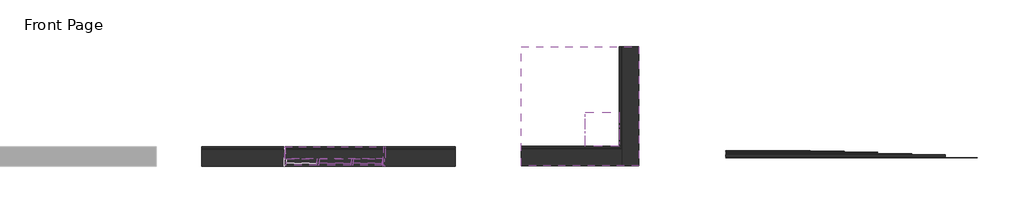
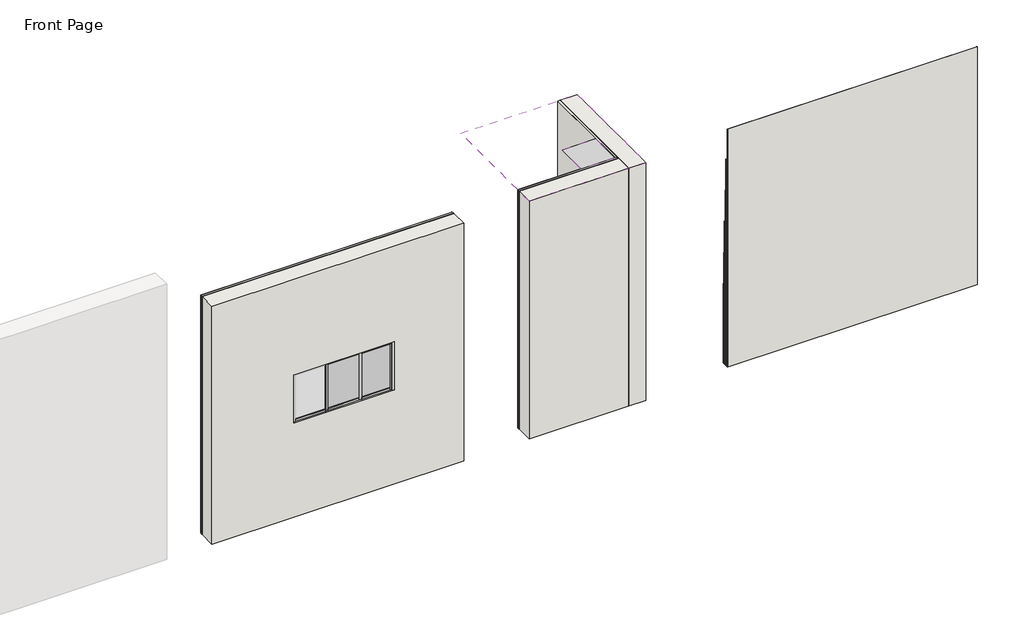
# One storey, part 2 of 2: 28 walls, 8 members, 2 coverings, 2 plates, 2 slabs, 1 proxy.
"""IFC4 building model written with IfcOpenShell, lengths in millimetres."""

from ifc_helpers import new_model, si_unit, frame, origin, origin_with_axes, place, context, project, spatial, polyline, outline, extrude, faceted_brep, transform, mapped, element, save
from ifc_brep_helpers import plane_surface, spline_surface, advanced_brep
from components import rectangular_mullion_50_x_150mm_8a1ff190, rectangular_mullion_50_x_150mm_67db062b, rectangular_mullion_50_x_150mm_a0b78ac3, rectangular_mullion_50_x_150mm_648e3154, rectangular_mullion_50_x_150mm_9df94d2e, system_panel_glazed_34aa382c, system_panel_glazed_e7f8989c

model = new_model("IFC4")

# Units and contexts
model_context = context("Model", 3, world=origin())
ifc_project = project(units=[si_unit("LENGTHUNIT", "METRE", prefix="MILLI")], contexts=[model_context])

# Site, building, storey
site = spatial("IfcSite", under=ifc_project)
building = spatial("IfcBuilding", under=site)
storey = spatial("IfcBuildingStorey", under=building, Name="Front Page", Elevation=0.0)

# Proxy
placement = place(None, origin())
element("IfcBuildingElementProxy", 1, Name="Corner : Corner", ObjectType="Corner : Corner", at=placement, inside=storey, context=model_context, shape_type="AdvancedBrep", body=[
    advanced_brep(
    [(30432.4365532, 1501.9269611, 5987.0), (30432.4365532, 701.9269611, 5987.0), (30432.4365532, 701.9269611, 5992.0), (30432.4365532, 1501.9269611, 5992.0), (31232.4365532, 701.9269611, 5964.0), (31232.4365532, 701.9269611, 5992.0), (31232.4365532, 1501.9269611, 5987.0), (31232.4365532, 1501.9269611, 5992.0)],
    [
        (0, 1),
        (1, 2),
        (2, 3),
        (3, 0),
        (1, 4),
        (4, 5),
        (5, 2),
        (4, 6),
        (6, 7),
        (7, 5),
        (6, 0),
        (3, 7),
    ],
    [
        plane_surface(frame((30432.4365532, 1101.9269611, 5987.0), z_axis=(-1.0, 0.0, 0.0), x_axis=(0.0, -1.0, 0.0))),
        plane_surface(frame((30832.4365532, 701.9269611, 5975.5), z_axis=(0.0, -1.0, 0.0), x_axis=(1.0, 0.0, 0.0))),
        plane_surface(frame((31232.4365532, 1101.9269611, 5975.5), z_axis=(1.0, 0.0, 0.0), x_axis=(0.0, 1.0, 0.0))),
        plane_surface(frame((30832.4365532, 1501.9269611, 5987.0), z_axis=(0.0, 1.0, 0.0), x_axis=(-1.0, 0.0, 0.0))),
        plane_surface(frame((30832.4365532, 1101.9269611, 5992.0), z_axis=(0.0, 0.0, 1.0), x_axis=(0.0, 1.0, 0.0))),
        spline_surface(1, 1, [[(31232.4365532, 1501.9269611, 5987.0), (30432.4365532, 1501.9269611, 5987.0)], [(31232.4365532, 701.9269611, 5964.0), (30432.4365532, 701.9269611, 5987.0)]], [2, 2], [2, 2], [0.0, 1.0], [0.0, 1.0]),
    ],
    [
        (0, [[1, 2, 3, 4]]),
        (1, [[5, 6, 7, -2]]),
        (2, [[8, 9, 10, -6]]),
        (3, [[11, -4, 12, -9]]),
        (4, [[-10, -12, -3, -7]]),
        (5, [[-11, -8, -5, -1]]),
    ],
),
])

# Coverings
element("IfcCovering", 2, ObjectType="SkamoWall Wedge", at=placement, inside=storey, context=model_context, shape_type="SweptSolid", body=[
    extrude(outline(polyline([(30432.4365532, 701.9269611), (30432.4365532, 1501.9269611), (31232.4365532, 1501.9269611), (31232.4365532, 701.9269611), (30432.4365532, 701.9269611)])), frame((0.0, 0.0, 5992.0), z_axis=(0.0, 0.0, 1.0), x_axis=(1.0, 0.0, 0.0)), (0.0, 0.0, 1.0), 8.0),
])
element("IfcCovering", 3, ObjectType="Plain", at=placement, inside=storey, context=model_context, shape_type="SweptSolid", body=[
    extrude(outline(polyline([(28914.3740532, 235.7069818), (28914.3740532, 3059.7069818), (31698.3740532, 3059.7069818), (31698.3740532, 235.7069818), (28914.3740532, 235.7069818)])), frame((0.0, 0.0, 6000.0), z_axis=(0.0, 0.0, 1.0), x_axis=(1.0, 0.0, 0.0)), (0.0, 0.0, 1.0), 57.0),
])

# Members
rectangular_mullion_50_x_150mm_shape = rectangular_mullion_50_x_150mm_8a1ff190(model_context)
element("IfcMember", 4, ObjectType="Rectangular Mullion : 50 x 150mm", at=placement, inside=storey, context=model_context, shape_type="MappedRepresentation", body=[
    mapped(rectangular_mullion_50_x_150mm_shape, transform((24123.7000967, 330.3189246, 3589.3132869), x_axis=(0.0, 0.0, 1.0), y_axis=(0.0, 1.0, 0.0), z_axis=(-1.0, 0.0, 0.0))),
])
rectangular_mullion_50_x_150mm_2_shape = rectangular_mullion_50_x_150mm_67db062b(model_context)
element("IfcMember", 5, ObjectType="Rectangular Mullion : 50 x 150mm", at=placement, inside=storey, context=model_context, shape_type="MappedRepresentation", body=[
    mapped(rectangular_mullion_50_x_150mm_2_shape, transform((24906.7000967, 330.3189246, 2377.3132869), x_axis=(-1.0, 0.0, 0.0), y_axis=(0.0, 1.0, 0.0), z_axis=(0.0, 0.0, -1.0))),
])
element("IfcMember", 6, ObjectType="Rectangular Mullion : 50 x 150mm", at=placement, inside=storey, context=model_context, shape_type="MappedRepresentation", body=[
    mapped(rectangular_mullion_50_x_150mm_2_shape, transform((24098.7000967, 330.3189246, 2377.3132869), x_axis=(-1.0, 0.0, 0.0), y_axis=(0.0, 1.0, 0.0), z_axis=(0.0, 0.0, -1.0))),
])
element("IfcMember", 7, ObjectType="Rectangular Mullion : 50 x 150mm", at=placement, inside=storey, context=model_context, shape_type="MappedRepresentation", body=[
    mapped(rectangular_mullion_50_x_150mm_shape, transform((24881.7000967, 330.3189246, 2377.3132869), x_axis=(0.0, 0.0, -1.0), y_axis=(0.0, 1.0, 0.0), z_axis=(1.0, 0.0, 0.0))),
])
rectangular_mullion_50_x_150mm_3_shape = rectangular_mullion_50_x_150mm_a0b78ac3(model_context)
element("IfcMember", 8, ObjectType="Rectangular Mullion : 50 x 150mm", at=placement, inside=storey, context=model_context, shape_type="MappedRepresentation", body=[
    mapped(rectangular_mullion_50_x_150mm_3_shape, transform((25670.7000967, 330.3189246, 3589.3132869), x_axis=(1.0, 0.0, 0.0), y_axis=(0.0, 1.0, 0.0), z_axis=(0.0, 0.0, 1.0))),
])
rectangular_mullion_50_x_150mm_4_shape = rectangular_mullion_50_x_150mm_648e3154(model_context)
element("IfcMember", 9, ObjectType="Rectangular Mullion : 50 x 150mm", at=placement, inside=storey, context=model_context, shape_type="MappedRepresentation", body=[
    mapped(rectangular_mullion_50_x_150mm_4_shape, transform((24931.7000967, 330.3189246, 3589.3132869), x_axis=(0.0, 0.0, 1.0), y_axis=(0.0, 1.0, 0.0), z_axis=(-1.0, 0.0, 0.0))),
])
element("IfcMember", 10, ObjectType="Rectangular Mullion : 50 x 150mm", at=placement, inside=storey, context=model_context, shape_type="MappedRepresentation", body=[
    mapped(rectangular_mullion_50_x_150mm_4_shape, transform((25620.7000967, 330.3189246, 2377.3132869), x_axis=(0.0, 0.0, -1.0), y_axis=(0.0, 1.0, 0.0), z_axis=(1.0, 0.0, 0.0))),
])
rectangular_mullion_50_x_150mm_5_shape = rectangular_mullion_50_x_150mm_9df94d2e(model_context)
element("IfcMember", 11, ObjectType="Rectangular Mullion : 50 x 150mm", at=placement, inside=storey, context=model_context, shape_type="MappedRepresentation", body=[
    mapped(rectangular_mullion_50_x_150mm_5_shape, transform((24073.7000967, 330.3189246, 2377.3132869), x_axis=(0.0, 0.0, -1.0), y_axis=(0.0, 1.0, 0.0), z_axis=(1.0, 0.0, 0.0))),
])

# Plates
system_panel_glazed_shape = system_panel_glazed_34aa382c(model_context)
element("IfcPlate", 12, ObjectType="System Panel : Glazed", at=placement, inside=storey, context=model_context, shape_type="MappedRepresentation", body=[
    mapped(system_panel_glazed_shape, transform((24502.7000967, 330.3189246, 2427.3132869), x_axis=(-1.0, 0.0, 0.0), y_axis=(0.0, -1.0, 0.0), z_axis=(0.0, 0.0, 1.0))),
])
system_panel_glazed_2_shape = system_panel_glazed_e7f8989c(model_context)
element("IfcPlate", 13, ObjectType="System Panel : Glazed", at=placement, inside=storey, context=model_context, shape_type="MappedRepresentation", body=[
    mapped(system_panel_glazed_2_shape, transform((25276.2000967, 330.3189246, 2427.3132869), x_axis=(-1.0, 0.0, 0.0), y_axis=(0.0, -1.0, 0.0), z_axis=(0.0, 0.0, 1.0))),
])

# Slabs
element("IfcSlab", 14, ObjectType="Bore samlet", at=placement, inside=storey, context=model_context, shape_type="SweptSolid", body=[
    extrude(outline(polyline([(25648.7000967, 405.3189246), (23327.2625967, 405.3189246), (23327.2625967, 688.3501746), (25648.7000967, 688.3501746), (25648.7000967, 405.3189246)])), frame((0.0, 0.0, 2377.0), z_axis=(0.0, 0.0, 1.0), x_axis=(1.0, 0.0, 0.0)), (0.0, 0.0, 1.0), 44.0),
])
element("IfcSlab", 15, ObjectType="Bore samlet omv", at=placement, inside=storey, context=model_context, shape_type="SweptSolid", body=[
    extrude(outline(polyline([(25648.7000967, 405.3189246), (23313.2000967, 405.3189246), (23313.2000967, 689.3501746), (25648.7000967, 689.3501746), (25648.7000967, 405.3189246)])), frame((0.0, 0.0, 3545.313228), z_axis=(0.0, 0.0, 1.0), x_axis=(1.0, 0.0, 0.0)), (0.0, 0.0, 1.0), 44.0),
])

# Walls
element("IfcWall", 16, ObjectType="Skamol Adhesive - 8mm", at=placement, inside=storey, context=model_context, shape_type="SweptSolid", body=[
    extrude(outline(polyline([(0.0, 21344.985996), (0.0, 27344.985996), (6000.0, 27344.985996), (6000.0, 21344.985996), (0.0, 21344.985996)]), holes=[polyline([(3589.3132869, 23306.2000967), (3589.3132869, 25692.7000967), (2377.3132869, 25692.7000967), (2377.3132869, 23306.2000967), (3589.3132869, 23306.2000967)])]), frame((0.0, 630.3423621, 0.0), z_axis=(0.0, 1.0, 0.0), x_axis=(0.0, 0.0, 1.0)), (0.0, 0.0, 1.0), 8.0),
])
element("IfcWall", 17, ObjectType="SkamoWall Board 50mm", at=placement, inside=storey, context=model_context, shape_type="Brep", body=[
    faceted_brep([(21344.985996, 638.2173621, 0.0), (27344.985996, 638.2173621, 0.0), (27344.985996, 638.2173621, 6000.0), (21344.985996, 638.2173621, 6000.0), (23327.5750967, 638.2173621, 3555.3160189), (25714.7000967, 638.2173621, 3555.3160189), (25714.7000967, 638.2173621, 2410.9805239), (23324.6219717, 638.2173621, 2410.9805239), (23305.6219717, 638.2173621, 2410.9805239), (23305.6219717, 638.2173621, 3335.3160189), (23097.9607791, 638.2173621, 3335.3160189), (23097.9607791, 638.2173621, 3555.3160189), (21344.985996, 688.2173621, 0.0), (21344.985996, 688.2173621, 6000.0), (27344.985996, 688.2173621, 6000.0), (27344.985996, 688.2173621, 0.0), (23327.5750967, 688.2173621, 3555.3160189), (23097.9607791, 688.2173621, 3555.3160189), (23097.9607791, 688.2173621, 3335.3160189), (23305.6219717, 688.2173621, 3335.3160189), (23305.6219717, 688.2173621, 2410.9805239), (23324.6219717, 688.2173621, 2410.9805239), (25714.7000967, 688.2173621, 2410.9805239), (25714.7000967, 688.2173621, 3555.3160189)], [[[0, 1, 2, 3], [4, 5, 6, 7, 8, 9, 10, 11]], [[12, 13, 14, 15], [16, 17, 18, 19, 20, 21, 22, 23]], [[1, 0, 12, 15]], [[2, 1, 15, 14]], [[3, 2, 14, 13]], [[0, 3, 13, 12]], [[5, 4, 16, 23]], [[6, 5, 23, 22]], [[8, 7, 6, 22, 21, 20]], [[10, 9, 19, 18]], [[11, 10, 18, 17]], [[4, 11, 17, 16]], [[9, 8, 20, 19]]]),
])
element("IfcWall", 18, ObjectType="Skamol Smooth Plaster", at=placement, inside=storey, context=model_context, shape_type="Brep", body=[
    faceted_brep([(21344.985996, 689.2095496, 0.0), (27344.985996, 689.2095496, 0.0), (27344.985996, 689.2095496, 6000.0), (21344.985996, 689.2095496, 6000.0), (23097.9607791, 689.2095496, 3545.313228), (25648.7000967, 689.2095496, 3545.313228), (25648.7000967, 689.2095496, 2421.0), (23325.2899405, 689.2095496, 2421.0), (23325.2899405, 689.2095496, 2945.313228), (23097.9607791, 689.2095496, 2945.313228), (21344.985996, 690.2095496, 0.0), (21344.985996, 690.2095496, 6000.0), (27344.985996, 690.2095496, 6000.0), (27344.985996, 690.2095496, 0.0), (23097.9607791, 690.2095496, 3545.313228), (23097.9607791, 690.2095496, 2945.313228), (23325.2899405, 690.2095496, 2945.313228), (23325.2899405, 690.2095496, 2540.9528915), (23325.2899405, 690.2095496, 2421.0), (25648.7000967, 690.2095496, 2421.0), (25648.7000967, 690.2095496, 3545.313228)], [[[0, 1, 2, 3], [4, 5, 6, 7, 8, 9]], [[10, 11, 12, 13], [14, 15, 16, 17, 18, 19, 20]], [[1, 0, 10, 13]], [[2, 1, 13, 12]], [[3, 2, 12, 11]], [[0, 3, 11, 10]], [[5, 4, 14, 20]], [[7, 6, 19, 18]], [[4, 9, 15, 14]], [[9, 8, 16, 15]], [[6, 5, 20, 19]], [[7, 18, 17, 16, 8]]]),
])
element("IfcWall", 19, ObjectType="SkamoWall Bore", at=placement, inside=storey, context=model_context, shape_type="Brep", body=[
    faceted_brep([(25648.7000967, 689.2095496, 3589.3132869), (25648.7000967, 689.2095496, 3545.313228), (25648.7000967, 689.2095496, 2421.0), (25648.7000967, 689.2095496, 2377.3132869), (25648.7000967, 222.3189246, 2377.3132869), (25648.7000967, 222.3189246, 3589.3132869), (25692.7000967, 689.2095496, 2377.3132869), (25692.7000967, 689.2095496, 3589.3132869), (25692.7000967, 638.3423621, 3589.3132869), (25692.7000967, 630.3189246, 3589.3132869), (25692.7000967, 222.3189246, 3589.3132869), (25692.7000967, 222.3189246, 2377.3132869), (25692.7000967, 630.3189246, 2377.3132869), (25692.7000967, 638.3423621, 2377.3132869)], [[[0, 1, 2, 3, 4, 5]], [[6, 7, 8, 9, 10, 11, 12, 13]], [[4, 3, 6, 13, 12, 11]], [[0, 5, 10, 9, 8, 7]], [[5, 4, 11, 10]], [[0, 7, 6, 3, 2, 1]]]),
])
element("IfcWall", 20, ObjectType="Skamol Primer", at=placement, inside=storey, context=model_context, shape_type="Brep", body=[
    faceted_brep([(21344.985996, 688.1157996, 0.0), (27344.985996, 688.1157996, 0.0), (27344.985996, 688.1157996, 6000.0), (21344.985996, 688.1157996, 6000.0), (23327.7000967, 688.1157996, 3589.3132869), (25714.7000967, 688.1157996, 3589.3132869), (25714.7000967, 688.1157996, 2377.3132869), (23325.6454092, 688.1157996, 2377.3132869), (23325.6454092, 688.1157996, 2416.0), (23325.6454092, 688.1157996, 3130.313228), (23324.6454092, 688.1157996, 3130.313228), (23097.9607791, 688.1157996, 3130.313228), (23097.9607791, 688.1157996, 3550.313228), (23327.7000967, 688.1157996, 3550.313228), (21344.985996, 689.1157996, 0.0), (21344.985996, 689.1157996, 6000.0), (27344.985996, 689.1157996, 6000.0), (27344.985996, 689.1157996, 0.0), (23327.7000967, 689.1157996, 3589.3132869), (23327.7000967, 689.1157996, 3550.313228), (23097.9607791, 689.1157996, 3550.313228), (23097.9607791, 689.1157996, 3130.313228), (23325.6454092, 689.1157996, 3130.313228), (23325.6454092, 689.1157996, 2377.3132869), (25714.7000967, 689.1157996, 2377.3132869), (25714.7000967, 689.1157996, 3589.3132869)], [[[0, 1, 2, 3], [4, 5, 6, 7, 8, 9, 10, 11, 12, 13]], [[14, 15, 16, 17], [18, 19, 20, 21, 22, 23, 24, 25]], [[1, 0, 14, 17]], [[2, 1, 17, 16]], [[3, 2, 16, 15]], [[0, 3, 15, 14]], [[5, 4, 18, 25]], [[6, 5, 25, 24]], [[7, 6, 24, 23]], [[4, 13, 19, 18]], [[11, 10, 9, 22, 21]], [[12, 11, 21, 20]], [[13, 12, 20, 19]], [[9, 8, 7, 23, 22]]]),
])
element("IfcWall", 21, ObjectType="Skamol Smooth Plaster", at=placement, inside=storey, context=model_context, shape_type="Brep", body=[
    faceted_brep([(23326.2899405, 403.5104132, 2421.0), (23326.2899405, 690.3657996, 2421.0), (23326.2899405, 690.3657996, 2540.9528915), (23326.2899405, 690.2095496, 2945.3243059), (23326.2899405, 403.5104132, 2945.3243059), (23325.2899405, 403.5104132, 2421.0), (23325.2899405, 403.5104132, 2945.3243059), (23325.2899405, 689.2095496, 2945.3243059), (23325.2899405, 690.2095496, 2945.3243059), (23325.2899405, 690.2095496, 2540.9528915), (23325.2899405, 690.3657996, 2421.0), (23325.2899405, 689.3657996, 2421.0)], [[[0, 1, 2, 3, 4]], [[5, 6, 7, 8, 9, 10, 11]], [[1, 0, 5, 11, 10]], [[4, 3, 8, 7, 6]], [[0, 4, 6, 5]], [[2, 1, 10, 9]], [[3, 2, 9, 8]]]),
])
element("IfcWall", 22, ObjectType="Skamol Primer", at=placement, inside=storey, context=model_context, shape_type="SweptSolid", body=[
    extrude(outline(polyline([(23325.6454092, 688.1157996), (23325.6454092, 400.373984), (23324.6454092, 400.373984), (23324.6454092, 688.1157996), (23325.6454092, 688.1157996)])), frame((0.0, 0.0, 2416.0), z_axis=(0.0, 0.0, 1.0), x_axis=(1.0, 0.0, 0.0)), (0.0, 0.0, 1.0), 714.182453),
])
element("IfcWall", 23, ObjectType="Skamol Adhesive - 8mm", at=placement, inside=storey, context=model_context, shape_type="Brep", body=[
    faceted_brep([(31290.3740532, 651.7069818, 0.0), (31290.3740532, 3059.7069818, 0.0), (31290.3740532, 3059.7069818, 6000.0), (31290.3740532, 651.7069818, 6000.0), (31282.3740532, 651.7069818, 0.0), (31282.3740532, 651.7069818, 6000.0), (31282.3740532, 651.9269611, 6000.0), (31282.3740532, 701.9269611, 6000.0), (31282.3740532, 3059.7069818, 6000.0), (31282.3740532, 3059.7069818, 0.0), (31282.3740532, 701.9269611, 0.0), (31282.3740532, 651.9269611, 0.0)], [[[0, 1, 2, 3]], [[4, 5, 6, 7, 8, 9, 10, 11]], [[1, 0, 4, 11, 10, 9]], [[2, 1, 9, 8]], [[3, 2, 8, 7, 6, 5]], [[0, 3, 5, 4]]]),
])
element("IfcWall", 24, ObjectType="SkamoWall Board 50mm", at=placement, inside=storey, context=model_context, shape_type="SweptSolid", body=[
    extrude(outline(polyline([(31282.4365532, 3059.7069818), (31282.4365532, 701.9269611), (31232.4365532, 701.9269611), (31232.4365532, 3059.7069818), (31282.4365532, 3059.7069818)])), origin_with_axes(), (0.0, 0.0, 1.0), 6000.0),
])
element("IfcWall", 25, ObjectType="Skamol Primer", at=placement, inside=storey, context=model_context, shape_type="Brep", body=[
    faceted_brep([(31232.4404594, 701.9269611, 0.0), (31232.4404594, 3059.7069818, 0.0), (31232.4404594, 3059.7069818, 6000.0), (31232.4404594, 1501.9269611, 6000.0), (31232.4404594, 1501.9269611, 5987.0), (31232.4404594, 701.9269611, 5964.0737116), (31231.4404594, 701.9269611, 0.0), (31231.4404594, 701.9269611, 5964.0737116), (31231.4404594, 1501.9269611, 5987.0), (31231.4404594, 1501.9269611, 6000.0), (31231.4404594, 3059.7069818, 6000.0), (31231.4404594, 3059.7069818, 0.0), (31231.4404594, 703.9269611, 0.0), (31231.4404594, 702.9269611, 0.0)], [[[0, 1, 2, 3, 4, 5]], [[6, 7, 8, 9, 10, 11, 12, 13]], [[1, 0, 6, 13, 12, 11]], [[2, 1, 11, 10]], [[3, 2, 10, 9]], [[0, 5, 7, 6]], [[4, 3, 9, 8]], [[5, 4, 8, 7]]]),
])
element("IfcWall", 26, ObjectType="Skamol Smooth Plaster", at=placement, inside=storey, context=model_context, shape_type="SweptSolid", body=[
    extrude(outline(polyline([(703.9269611, 0.0), (703.9269611, 5964.0075986), (1501.9269611, 5986.9214406), (1501.9269611, 6000.0), (3059.7069818, 6000.0), (3059.7069818, 0.0), (703.9269611, 0.0)])), frame((31230.4404594, 0.0, 0.0), z_axis=(1.0, 0.0, 0.0), x_axis=(0.0, 1.0, 0.0)), (0.0, 0.0, 1.0), 1.0),
])
element("IfcWall", 27, ObjectType="Skamol Primer", at=placement, inside=storey, context=model_context, shape_type="Brep", body=[
    faceted_brep([(31283.0459282, 650.9726068, 0.0), (31283.0459282, 3059.7069818, 0.0), (31283.0459282, 3059.7069818, 6000.0), (31283.0459282, 650.9726068, 6000.0), (31282.0459282, 650.9726068, 0.0), (31282.0459282, 650.9726068, 6000.0), (31282.0459282, 651.9726068, 6000.0), (31282.0459282, 3059.7069818, 6000.0), (31282.0459282, 3059.7069818, 0.0), (31282.0459282, 651.9726068, 0.0)], [[[0, 1, 2, 3]], [[4, 5, 6, 7, 8, 9]], [[1, 0, 4, 9, 8]], [[2, 1, 8, 7]], [[3, 2, 7, 6, 5]], [[0, 3, 5, 4]]]),
])
element("IfcWall", 28, ObjectType="Skamol Adhesive - 8mm", at=placement, inside=storey, context=model_context, shape_type="Brep", body=[
    faceted_brep([(28914.3740532, 643.7069818, 0.0), (31290.3740532, 643.7069818, 0.0), (31290.3740532, 643.7069818, 6000.0), (28914.3740532, 643.7069818, 6000.0), (28914.3740532, 651.7069818, 0.0), (28914.3740532, 651.7069818, 6000.0), (31282.3740532, 651.7069818, 6000.0), (31290.3740532, 651.7069818, 6000.0), (31290.3740532, 651.7069818, 0.0), (31282.3740532, 651.7069818, 0.0)], [[[0, 1, 2, 3]], [[4, 5, 6, 7, 8, 9]], [[1, 0, 4, 9, 8]], [[3, 2, 7, 6, 5]], [[0, 3, 5, 4]], [[2, 1, 8, 7]]]),
])
element("IfcWall", 29, ObjectType="SkamoWall Board 50mm", at=placement, inside=storey, context=model_context, shape_type="Brep", body=[
    faceted_brep([(28914.3740532, 651.9269611, 0.0), (31282.3740532, 651.9269611, 0.0), (31282.3740532, 651.9269611, 6000.0), (28914.3740532, 651.9269611, 6000.0), (28914.3740532, 701.9269611, 0.0), (28914.3740532, 701.9269611, 6000.0), (31232.4365532, 701.9269611, 6000.0), (31282.3740532, 701.9269611, 6000.0), (31282.3740532, 701.9269611, 0.0), (31232.4365532, 701.9269611, 0.0)], [[[0, 1, 2, 3]], [[4, 5, 6, 7, 8, 9]], [[1, 0, 4, 9, 8]], [[3, 2, 7, 6, 5]], [[0, 3, 5, 4]], [[2, 1, 8, 7]]]),
])
element("IfcWall", 30, ObjectType="Skamol Primer", at=placement, inside=storey, context=model_context, shape_type="SweptSolid", body=[
    extrude(outline(polyline([(0.0, 28914.3740532), (0.0, 31231.4404594), (5964.0286377, 31231.4404594), (5987.0000343, 30432.4353601), (6000.0, 30432.4353601), (6000.0, 28914.3740532), (0.0, 28914.3740532)])), frame((0.0, 701.9269611, 0.0), z_axis=(0.0, 1.0, 0.0), x_axis=(0.0, 0.0, 1.0)), (0.0, 0.0, 1.0), 1.0),
])
element("IfcWall", 31, ObjectType="Skamol Smooth Plaster", at=placement, inside=storey, context=model_context, shape_type="Brep", body=[
    faceted_brep([(28914.3740532, 702.9269611, 0.0), (31231.4404594, 702.9269611, 0.0), (31231.4404594, 702.9269611, 5964.0286377), (30432.4353601, 702.9269611, 5987.0000343), (30432.4353601, 702.9269611, 6000.0), (28914.3740532, 702.9269611, 6000.0), (28914.3740532, 703.9269611, 0.0), (28914.3740532, 703.9269611, 6000.0), (30432.4353601, 703.9269611, 6000.0), (30432.4353601, 703.9269611, 5987.0000343), (31231.4404594, 703.9269611, 5964.0286377), (31231.4404594, 703.9269611, 0.0), (31230.4404594, 703.9269611, 0.0)], [[[0, 1, 2, 3, 4, 5]], [[6, 7, 8, 9, 10, 11, 12]], [[1, 0, 6, 12, 11]], [[5, 4, 8, 7]], [[0, 5, 7, 6]], [[2, 1, 11, 10]], [[3, 2, 10, 9]], [[4, 3, 9, 8]]]),
])
element("IfcWall", 32, ObjectType="Skamol Primer", at=placement, inside=storey, context=model_context, shape_type="SweptSolid", body=[
    extrude(outline(polyline([(31282.0459282, 650.9726068), (28914.3740532, 650.9726068), (28914.3740532, 651.9726068), (31282.0459282, 651.9726068), (31282.0459282, 650.9726068)])), origin_with_axes(), (0.0, 0.0, 1.0), 6000.0),
])
element("IfcWall", 33, ObjectType="Skamol Adhesive - 8mm", at=placement, inside=storey, context=model_context, shape_type="SweptSolid", body=[
    extrude(outline(polyline([(39713.5645075, 423.1423036), (33756.0645075, 423.1423036), (33756.0645075, 431.1423036), (39713.5645075, 431.1423036), (39713.5645075, 423.1423036)])), origin_with_axes(), (0.0, 0.0, 1.0), 6000.0),
])
element("IfcWall", 34, ObjectType="SkamoWall Board 50mm", at=placement, inside=storey, context=model_context, shape_type="SweptSolid", body=[
    extrude(outline(polyline([(38956.0645075, 449.8766786), (33756.0645075, 449.8766786), (33756.0645075, 499.8766786), (38956.0645075, 499.8766786), (38956.0645075, 449.8766786)])), origin_with_axes(), (0.0, 0.0, 1.0), 5200.0),
])
element("IfcWall", 35, ObjectType="Skamol Smooth Plaster", at=placement, inside=storey, context=model_context, shape_type="SweptSolid", body=[
    extrude(outline(polyline([(37358.5645075, 561.1305848), (33758.5645075, 561.1305848), (33758.5645075, 562.1305848), (37358.5645075, 562.1305848), (37358.5645075, 561.1305848)])), origin_with_axes(), (0.0, 0.0, 1.0), 3600.0),
])
element("IfcWall", 36, ObjectType="Skamol Mesh", at=placement, inside=storey, context=model_context, shape_type="SweptSolid", body=[
    extrude(outline(polyline([(36556.0645075, 580.1305848), (33756.0645075, 580.1305848), (33756.0645075, 585.1305848), (36556.0645075, 585.1305848), (36556.0645075, 580.1305848)])), origin_with_axes(), (0.0, 0.0, 1.0), 2800.0),
])
element("IfcWall", 37, ObjectType="Skamol Primer", at=placement, inside=storey, context=model_context, shape_type="SweptSolid", body=[
    extrude(outline(polyline([(38156.0645075, 525.1266786), (33756.0645075, 525.1266786), (33756.0645075, 526.1266786), (38156.0645075, 526.1266786), (38156.0645075, 525.1266786)])), origin_with_axes(), (0.0, 0.0, 1.0), 4400.0),
])
element("IfcWall", 38, ObjectType="Skamol Smooth Plaster", at=placement, inside=storey, context=model_context, shape_type="SweptSolid", body=[
    extrude(outline(polyline([(35756.0645075, 595.1305848), (33756.0645075, 595.1305848), (33756.0645075, 596.1305848), (35756.0645075, 596.1305848), (35756.0645075, 595.1305848)])), origin_with_axes(), (0.0, 0.0, 1.0), 2000.0),
])
element("IfcWall", 39, ObjectType="Skamol Smooth Plaster", at=placement, inside=storey, context=model_context, shape_type="Brep", body=[
    faceted_brep([(21344.985996, 689.3657996, 0.0), (27344.985996, 689.3657996, 0.0), (27344.985996, 689.3657996, 6000.0), (21344.985996, 689.3657996, 6000.0), (23097.9607791, 689.3657996, 3545.313228), (25648.7000967, 689.3657996, 3545.313228), (25648.7000967, 689.3657996, 2421.0), (23325.2899405, 689.3657996, 2421.0), (23325.2899405, 689.3657996, 2540.9528915), (23097.9607791, 689.3657996, 2540.9528915), (21344.985996, 690.3657996, 0.0), (21344.985996, 690.3657996, 6000.0), (27344.985996, 690.3657996, 6000.0), (27344.985996, 690.3657996, 0.0), (23097.9607791, 690.3657996, 3545.313228), (23097.9607791, 690.3657996, 2540.9528915), (23325.2899405, 690.3657996, 2540.9528915), (23325.2899405, 690.3657996, 2421.0), (23326.2899405, 690.3657996, 2421.0), (25648.7000967, 690.3657996, 2421.0), (25648.7000967, 690.3657996, 3545.313228)], [[[0, 1, 2, 3], [4, 5, 6, 7, 8, 9]], [[10, 11, 12, 13], [14, 15, 16, 17, 18, 19, 20]], [[1, 0, 10, 13]], [[2, 1, 13, 12]], [[3, 2, 12, 11]], [[0, 3, 11, 10]], [[5, 4, 14, 20]], [[7, 6, 19, 18, 17]], [[4, 9, 15, 14]], [[9, 8, 16, 15]], [[8, 7, 17, 16]], [[6, 5, 20, 19]]]),
])
element("IfcWall", 40, ObjectType="Skamol Smooth Plaster", at=placement, inside=storey, context=model_context, shape_type="SweptSolid", body=[
    extrude(outline(polyline([(23327.3680655, 690.6939246), (23327.3680655, 403.5104132), (23326.3680655, 403.5104132), (23326.3680655, 690.6939246), (23327.3680655, 690.6939246)])), frame((0.0, 0.0, 2421.0), z_axis=(0.0, 0.0, 1.0), x_axis=(1.0, 0.0, 0.0)), (0.0, 0.0, 1.0), 119.9528915),
])
element("IfcWall", 41, ObjectType="a1", at=placement, inside=storey, context=model_context, shape_type="Brep", body=[
    faceted_brep([(21344.985996, 222.3189246, 0.0), (27344.985996, 222.3189246, 0.0), (27344.985996, 222.3189246, 6000.0), (21344.985996, 222.3189246, 6000.0), (23298.2000967, 222.3189246, 3589.3132869), (23306.2000967, 222.3189246, 3589.3132869), (25648.7000967, 222.3189246, 3589.3132869), (25692.7000967, 222.3189246, 3589.3132869), (25692.7000967, 222.3189246, 2377.3132869), (25648.7000967, 222.3189246, 2377.3132869), (23306.2000967, 222.3189246, 2377.3132869), (23298.2000967, 222.3189246, 2377.3132869), (21344.985996, 630.3189246, 0.0), (21344.985996, 630.3189246, 6000.0), (27344.985996, 630.3189246, 6000.0), (27344.985996, 630.3189246, 0.0), (23298.2000967, 630.3189246, 3589.3132869), (23298.2000967, 630.3189246, 2377.3132869), (25692.7000967, 630.3189246, 2377.3132869), (25692.7000967, 630.3189246, 3589.3132869)], [[[0, 1, 2, 3], [4, 5, 6, 7, 8, 9, 10, 11]], [[12, 13, 14, 15], [16, 17, 18, 19]], [[1, 0, 12, 15]], [[2, 1, 15, 14]], [[3, 2, 14, 13]], [[0, 3, 13, 12]], [[7, 6, 5, 4, 16, 19]], [[11, 10, 9, 8, 18, 17]], [[4, 11, 17, 16]], [[8, 7, 19, 18]]]),
])
element("IfcWall", 42, ObjectType="a1", at=placement, inside=storey, context=model_context, shape_type="Brep", body=[
    faceted_brep([(31698.3740532, 235.7069818, 0.0), (31698.3740532, 3059.7069818, 0.0), (31698.3740532, 3059.7069818, 6000.0), (31698.3740532, 235.7069818, 6000.0), (31290.3740532, 235.7069818, 0.0), (31290.3740532, 235.7069818, 6000.0), (31290.3740532, 643.7069818, 6000.0), (31290.3740532, 651.7069818, 6000.0), (31290.3740532, 3059.7069818, 6000.0), (31290.3740532, 3059.7069818, 0.0), (31290.3740532, 651.7069818, 0.0), (31290.3740532, 643.7069818, 0.0)], [[[0, 1, 2, 3]], [[4, 5, 6, 7, 8, 9, 10, 11]], [[1, 0, 4, 11, 10, 9]], [[2, 1, 9, 8]], [[3, 2, 8, 7, 6, 5]], [[0, 3, 5, 4]]]),
])
element("IfcWall", 43, ObjectType="a1", at=placement, inside=storey, context=model_context, shape_type="SweptSolid", body=[
    extrude(outline(polyline([(31290.3740532, 235.7069818), (28914.3740532, 235.7069818), (28914.3740532, 643.7069818), (31290.3740532, 643.7069818), (31290.3740532, 235.7069818)])), origin_with_axes(), (0.0, 0.0, 1.0), 6000.0),
])

save(model, "model.ifc")
